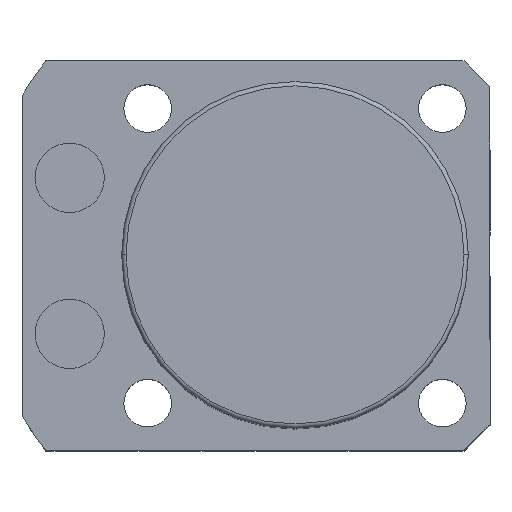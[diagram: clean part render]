
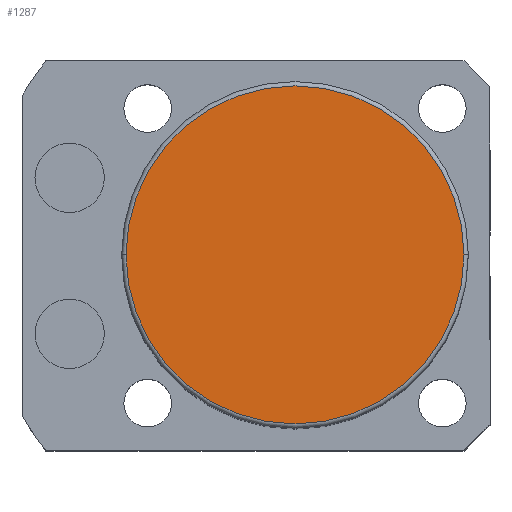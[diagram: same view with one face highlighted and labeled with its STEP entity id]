
A CAD part, top view. The second image highlights one B-rep face of the part: STEP entity #1287.
In plain terms, the highlighted planar face has unit normal (0, 0, 1).
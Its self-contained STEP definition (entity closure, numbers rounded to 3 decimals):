
#59 = DIRECTION ( 'NONE',  ( 0., 0., 1. ) ) ;
#144 = CARTESIAN_POINT ( 'NONE',  ( -19.5, 0., 73.5 ) ) ;
#635 = CIRCLE ( 'NONE', #4916, 19.5 ) ;
#1043 = CARTESIAN_POINT ( 'NONE',  ( 19.5, 0., 73.5 ) ) ;
#1044 = EDGE_CURVE ( 'NONE', #3020, #3462, #635, .T. ) ;
#1287 = ADVANCED_FACE ( 'NONE', ( #1643 ), #4763, .T. ) ;
#1317 = DIRECTION ( 'NONE',  ( 0., 0., 1. ) ) ;
#1421 = EDGE_CURVE ( 'NONE', #3462, #3020, #3489, .T. ) ;
#1643 = FACE_OUTER_BOUND ( 'NONE', #3740, .T. ) ;
#1843 = ORIENTED_EDGE ( 'NONE', *, *, #1044, .T. ) ;
#2093 = CARTESIAN_POINT ( 'NONE',  ( 0., 0., 73.5 ) ) ;
#2358 = DIRECTION ( 'NONE',  ( 0., 0., 1. ) ) ;
#2492 = CARTESIAN_POINT ( 'NONE',  ( 0., 0., 73.5 ) ) ;
#2573 = AXIS2_PLACEMENT_3D ( 'NONE', #2093, #1317, #4143 ) ;
#2823 = ORIENTED_EDGE ( 'NONE', *, *, #1421, .T. ) ;
#3020 = VERTEX_POINT ( 'NONE', #144 ) ;
#3311 = DIRECTION ( 'NONE',  ( 1., 0., 0. ) ) ;
#3462 = VERTEX_POINT ( 'NONE', #1043 ) ;
#3489 = CIRCLE ( 'NONE', #2573, 19.5 ) ;
#3725 = AXIS2_PLACEMENT_3D ( 'NONE', #3977, #2358, #3311 ) ;
#3740 = EDGE_LOOP ( 'NONE', ( #2823, #1843 ) ) ;
#3977 = CARTESIAN_POINT ( 'NONE',  ( 0., 0., 73.5 ) ) ;
#4143 = DIRECTION ( 'NONE',  ( 1., 0., 0. ) ) ;
#4532 = DIRECTION ( 'NONE',  ( 1., 0., 0. ) ) ;
#4763 = PLANE ( 'NONE',  #3725 ) ;
#4916 = AXIS2_PLACEMENT_3D ( 'NONE', #2492, #59, #4532 ) ;
